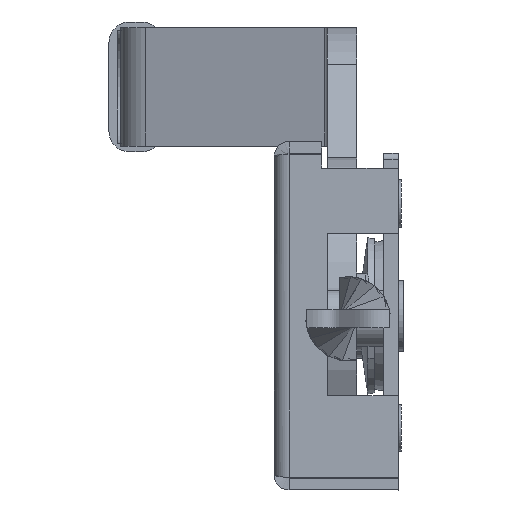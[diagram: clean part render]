
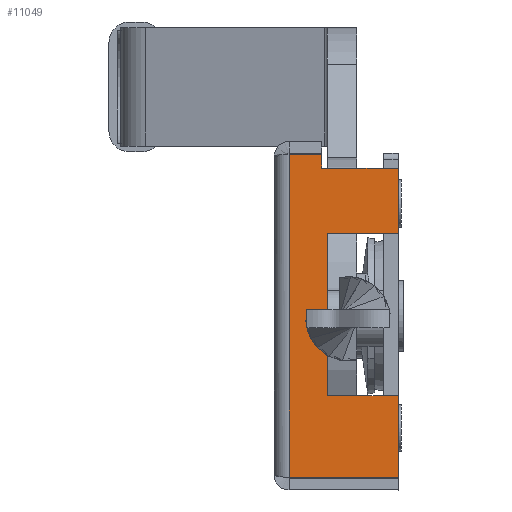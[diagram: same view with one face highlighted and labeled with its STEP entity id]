
A CAD part, left-side view. The second image highlights one B-rep face of the part: STEP entity #11049.
In plain terms, the highlighted planar face has unit normal (-1, 0, 0).
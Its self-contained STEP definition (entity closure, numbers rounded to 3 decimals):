
#79 = ORIENTED_EDGE ( 'NONE', *, *, #4377, .T. ) ;
#165 = VECTOR ( 'NONE', #8126, 1000. ) ;
#226 = VECTOR ( 'NONE', #7524, 1000. ) ;
#360 = CARTESIAN_POINT ( 'NONE',  ( -82., 81., -827.5 ) ) ;
#492 = VERTEX_POINT ( 'NONE', #6808 ) ;
#532 = DIRECTION ( 'NONE',  ( 1., 0., 0. ) ) ;
#565 = VECTOR ( 'NONE', #5865, 1000. ) ;
#1037 = DIRECTION ( 'NONE',  ( 0., -1., 0. ) ) ;
#1188 = CARTESIAN_POINT ( 'NONE',  ( -82., 93., 14. ) ) ;
#1230 = VERTEX_POINT ( 'NONE', #11393 ) ;
#1326 = LINE ( 'NONE', #1188, #7308 ) ;
#1670 = VERTEX_POINT ( 'NONE', #9622 ) ;
#1808 = ORIENTED_EDGE ( 'NONE', *, *, #11856, .F. ) ;
#1812 = ORIENTED_EDGE ( 'NONE', *, *, #13347, .T. ) ;
#1957 = ORIENTED_EDGE ( 'NONE', *, *, #9376, .T. ) ;
#1982 = CARTESIAN_POINT ( 'NONE',  ( -82., 81., 25. ) ) ;
#2040 = VECTOR ( 'NONE', #12831, 1000. ) ;
#2083 = DIRECTION ( 'NONE',  ( 0., 0., -1. ) ) ;
#2330 = VERTEX_POINT ( 'NONE', #7751 ) ;
#3186 = VERTEX_POINT ( 'NONE', #6732 ) ;
#3256 = EDGE_CURVE ( 'NONE', #6079, #12691, #10801, .T. ) ;
#3457 = LINE ( 'NONE', #7360, #12577 ) ;
#4377 = EDGE_CURVE ( 'NONE', #1230, #3186, #1326, .T. ) ;
#4465 = VECTOR ( 'NONE', #2083, 1000. ) ;
#4840 = CARTESIAN_POINT ( 'NONE',  ( -82., 81., -27.323 ) ) ;
#4861 = EDGE_CURVE ( 'NONE', #12691, #10311, #5383, .T. ) ;
#5222 = LINE ( 'NONE', #10416, #2040 ) ;
#5383 = LINE ( 'NONE', #12966, #565 ) ;
#5615 = ORIENTED_EDGE ( 'NONE', *, *, #9181, .T. ) ;
#5865 = DIRECTION ( 'NONE',  ( 0., 1., 0. ) ) ;
#6079 = VERTEX_POINT ( 'NONE', #14165 ) ;
#6567 = LINE ( 'NONE', #360, #226 ) ;
#6732 = CARTESIAN_POINT ( 'NONE',  ( -82., 93., 14. ) ) ;
#6808 = CARTESIAN_POINT ( 'NONE',  ( -82., 94., 25. ) ) ;
#6881 = LINE ( 'NONE', #11651, #12825 ) ;
#7308 = VECTOR ( 'NONE', #10723, 1000. ) ;
#7360 = CARTESIAN_POINT ( 'NONE',  ( -82., 94., 27.323 ) ) ;
#7524 = DIRECTION ( 'NONE',  ( 0., 0., -1. ) ) ;
#7697 = CARTESIAN_POINT ( 'NONE',  ( -82., 81., -827.5 ) ) ;
#7751 = CARTESIAN_POINT ( 'NONE',  ( -82., 94., 27.323 ) ) ;
#7774 = EDGE_CURVE ( 'NONE', #10311, #1670, #5222, .T. ) ;
#8098 = LINE ( 'NONE', #9397, #11233 ) ;
#8126 = DIRECTION ( 'NONE',  ( 0., 1., 0. ) ) ;
#8190 = FACE_OUTER_BOUND ( 'NONE', #12892, .T. ) ;
#8505 = CARTESIAN_POINT ( 'NONE',  ( -82., 81., 14. ) ) ;
#8538 = DIRECTION ( 'NONE',  ( 0., 0., 1. ) ) ;
#8587 = LINE ( 'NONE', #8926, #14861 ) ;
#8689 = ORIENTED_EDGE ( 'NONE', *, *, #3256, .F. ) ;
#8897 = DIRECTION ( 'NONE',  ( 0., 0., -1. ) ) ;
#8926 = CARTESIAN_POINT ( 'NONE',  ( -82., 93., -13.5 ) ) ;
#8991 = AXIS2_PLACEMENT_3D ( 'NONE', #7697, #532, #8897 ) ;
#9181 = EDGE_CURVE ( 'NONE', #6079, #1230, #8587, .T. ) ;
#9376 = EDGE_CURVE ( 'NONE', #2330, #1670, #12829, .T. ) ;
#9397 = CARTESIAN_POINT ( 'NONE',  ( -82., 93., 25. ) ) ;
#9446 = ORIENTED_EDGE ( 'NONE', *, *, #7774, .F. ) ;
#9622 = CARTESIAN_POINT ( 'NONE',  ( -82., 99.5, 27.323 ) ) ;
#9986 = ORIENTED_EDGE ( 'NONE', *, *, #11275, .T. ) ;
#10311 = VERTEX_POINT ( 'NONE', #13412 ) ;
#10416 = CARTESIAN_POINT ( 'NONE',  ( -82., 99.5, -27.5 ) ) ;
#10598 = DIRECTION ( 'NONE',  ( 0., 1., 0. ) ) ;
#10723 = DIRECTION ( 'NONE',  ( 0., 0., 1. ) ) ;
#10801 = LINE ( 'NONE', #15128, #4465 ) ;
#11049 = ADVANCED_FACE ( 'NONE', ( #8190 ), #11151, .F. ) ;
#11151 = PLANE ( 'NONE',  #8991 ) ;
#11233 = VECTOR ( 'NONE', #10598, 1000. ) ;
#11275 = EDGE_CURVE ( 'NONE', #12562, #492, #8098, .T. ) ;
#11393 = CARTESIAN_POINT ( 'NONE',  ( -82., 93., -13.5 ) ) ;
#11651 = CARTESIAN_POINT ( 'NONE',  ( -82., 93., 14. ) ) ;
#11715 = VERTEX_POINT ( 'NONE', #8505 ) ;
#11856 = EDGE_CURVE ( 'NONE', #12562, #11715, #6567, .T. ) ;
#12562 = VERTEX_POINT ( 'NONE', #1982 ) ;
#12577 = VECTOR ( 'NONE', #8538, 1000. ) ;
#12691 = VERTEX_POINT ( 'NONE', #4840 ) ;
#12825 = VECTOR ( 'NONE', #1037, 1000. ) ;
#12829 = LINE ( 'NONE', #12835, #165 ) ;
#12831 = DIRECTION ( 'NONE',  ( 0., 0., 1. ) ) ;
#12835 = CARTESIAN_POINT ( 'NONE',  ( -82., 81., 27.323 ) ) ;
#12892 = EDGE_LOOP ( 'NONE', ( #1812, #1957, #9446, #14618, #8689, #5615, #79, #13372, #1808, #9986 ) ) ;
#12966 = CARTESIAN_POINT ( 'NONE',  ( -82., 81., -27.323 ) ) ;
#13347 = EDGE_CURVE ( 'NONE', #492, #2330, #3457, .T. ) ;
#13372 = ORIENTED_EDGE ( 'NONE', *, *, #14997, .T. ) ;
#13412 = CARTESIAN_POINT ( 'NONE',  ( -82., 99.5, -27.323 ) ) ;
#13719 = DIRECTION ( 'NONE',  ( 0., 1., 0. ) ) ;
#14165 = CARTESIAN_POINT ( 'NONE',  ( -82., 81., -13.5 ) ) ;
#14618 = ORIENTED_EDGE ( 'NONE', *, *, #4861, .F. ) ;
#14861 = VECTOR ( 'NONE', #13719, 1000. ) ;
#14997 = EDGE_CURVE ( 'NONE', #3186, #11715, #6881, .T. ) ;
#15128 = CARTESIAN_POINT ( 'NONE',  ( -82., 81., -827.5 ) ) ;
